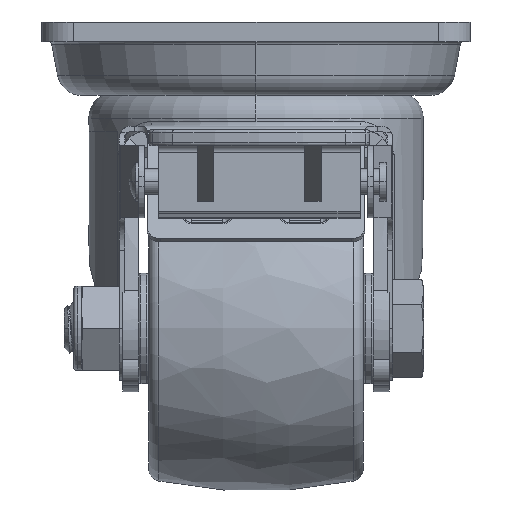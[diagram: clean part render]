
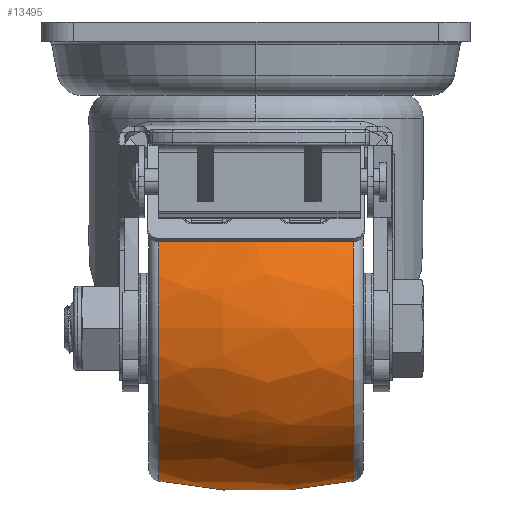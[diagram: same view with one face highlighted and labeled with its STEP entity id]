
A CAD part, left-side view. The second image highlights one B-rep face of the part: STEP entity #13495.
In plain terms, the highlighted free-form (B-spline) face has degree [3, 3] with [7, 4] control points.
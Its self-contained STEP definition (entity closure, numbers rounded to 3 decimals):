
#13023=CARTESIAN_POINT('',(-14.911,0.,0.));
#13024=DIRECTION('',(1.,0.,0.));
#13025=DIRECTION('',(0.,0.,-1.));
#13026=AXIS2_PLACEMENT_3D('',#13023,#13024,#13025);
#13033=CARTESIAN_POINT('',(0.,0.,47.595));
#13034=DIRECTION('',(0.,1.,0.));
#13035=DIRECTION('',(0.205,0.,-0.979));
#13036=AXIS2_PLACEMENT_3D('',#13033,#13034,#13035);
#13038=CARTESIAN_POINT('',(14.911,0.,0.));
#13039=DIRECTION('',(1.,0.,0.));
#13040=DIRECTION('',(0.,0.,-1.));
#13041=AXIS2_PLACEMENT_3D('',#13038,#13039,#13040);
#13043=CARTESIAN_POINT('',(0.,0.,
-47.595));
#13044=DIRECTION('',(0.,-1.,0.));
#13045=DIRECTION('',(0.205,0.,0.979));
#13046=AXIS2_PLACEMENT_3D('',#13043,#13044,#13045);
#13204=CARTESIAN_POINT('',(14.911,0.,-23.452));
#13206=VERTEX_POINT('',#13204);
#13207=CARTESIAN_POINT('',(-14.911,0.,-23.452));
#13208=VERTEX_POINT('',#13207);
#13238=CARTESIAN_POINT('',(14.911,0.,23.452));
#13240=VERTEX_POINT('',#13238);
#13241=CARTESIAN_POINT('',(-14.911,0.,23.452));
#13242=VERTEX_POINT('',#13241);
#13457=CARTESIAN_POINT('',(15.498,-1.465,
23.28));
#13458=CARTESIAN_POINT('',(5.247,-1.605,
25.516));
#13459=CARTESIAN_POINT('',(-5.247,-1.605,
25.516));
#13460=CARTESIAN_POINT('',(-15.498,-1.465,
23.28));
#13461=CARTESIAN_POINT('',(15.498,12.862,24.182));
#13462=CARTESIAN_POINT('',(5.247,14.097,26.504));
#13463=CARTESIAN_POINT('',(-5.247,14.097,
26.504));
#13464=CARTESIAN_POINT('',(-15.498,12.862,
24.182));
#13465=CARTESIAN_POINT('',(15.498,23.326,14.355));
#13466=CARTESIAN_POINT('',(5.247,25.567,15.734));
#13467=CARTESIAN_POINT('',(-5.247,25.567,
15.734));
#13468=CARTESIAN_POINT('',(-15.498,23.326,
14.355));
#13469=CARTESIAN_POINT('',(15.498,23.326,0.));
#13470=CARTESIAN_POINT('',(5.247,25.567,0.));
#13471=CARTESIAN_POINT('',(-5.247,25.567,0.));
#13472=CARTESIAN_POINT('',(-15.498,23.326,0.));
#13473=CARTESIAN_POINT('',(15.498,23.326,
-14.355));
#13474=CARTESIAN_POINT('',(5.247,25.567,
-15.734));
#13475=CARTESIAN_POINT('',(-5.247,25.567,
-15.734));
#13476=CARTESIAN_POINT('',(-15.498,23.326,
-14.355));
#13477=CARTESIAN_POINT('',(15.498,12.862,
-24.182));
#13478=CARTESIAN_POINT('',(5.247,14.097,
-26.504));
#13479=CARTESIAN_POINT('',(-5.247,14.097,
-26.504));
#13480=CARTESIAN_POINT('',(-15.498,12.862,
-24.182));
#13481=CARTESIAN_POINT('',(15.498,-1.465,
-23.28));
#13482=CARTESIAN_POINT('',(5.247,-1.605,
-25.516));
#13483=CARTESIAN_POINT('',(-5.247,-1.605,
-25.516));
#13484=CARTESIAN_POINT('',(-15.498,-1.465,
-23.28));
#13485=(BOUNDED_SURFACE()B_SPLINE_SURFACE(3,3,((#13457,#13458,#13459,#13460),(
#13461,#13462,#13463,#13464),(#13465,#13466,#13467,#13468),(#13469,#13470,
#13471,#13472),(#13473,#13474,#13475,#13476),(#13477,#13478,#13479,#13480),(
#13481,#13482,#13483,#13484)),.UNSPECIFIED.,.F.,.F.,.F.)B_SPLINE_SURFACE_WITH_KNOTS((4,3,4),(4,4),(0.,1.,2.),(0.,1.),.UNSPECIFIED.)GEOMETRIC_REPRESENTATION_ITEM()RATIONAL_B_SPLINE_SURFACE(((1.201,1.183,
1.183,1.201),(0.949,0.934,
0.934,0.949),(0.949,0.934,
0.934,0.949),(1.201,1.183,
1.183,1.201),(0.949,0.934,
0.934,0.949),(0.949,0.934,
0.934,0.949),(1.201,1.183,
1.183,1.201)))REPRESENTATION_ITEM('')SURFACE());
#13487=ORIENTED_EDGE('',*,*,#13486,.F.);
#13489=ORIENTED_EDGE('',*,*,#13488,.T.);
#13491=ORIENTED_EDGE('',*,*,#13490,.T.);
#13492=ORIENTED_EDGE('',*,*,#13450,.F.);
#13493=EDGE_LOOP('',(#13487,#13489,#13491,#13492));
#13494=FACE_OUTER_BOUND('',#13493,.F.);
#13495=ADVANCED_FACE('',(#13494),#13485,.T.);
#13027=CIRCLE('',#13026,23.452);
#13037=CIRCLE('',#13036,72.595);
#13042=CIRCLE('',#13041,23.452);
#13047=CIRCLE('',#13046,72.595);
#13450=EDGE_CURVE('',#13208,#13242,#13027,.T.);
#13486=EDGE_CURVE('',#13206,#13208,#13037,.T.);
#13488=EDGE_CURVE('',#13206,#13240,#13042,.T.);
#13490=EDGE_CURVE('',#13240,#13242,#13047,.T.);
